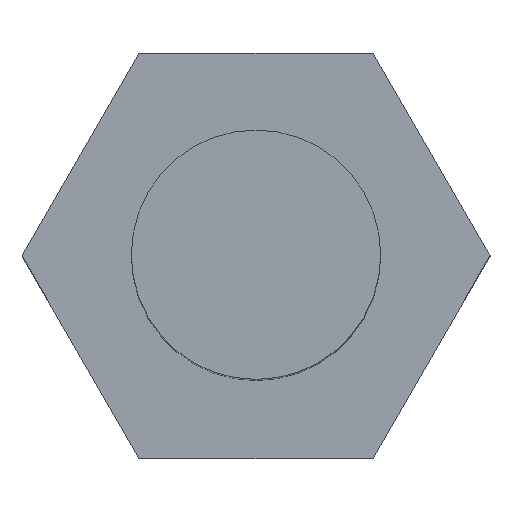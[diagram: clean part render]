
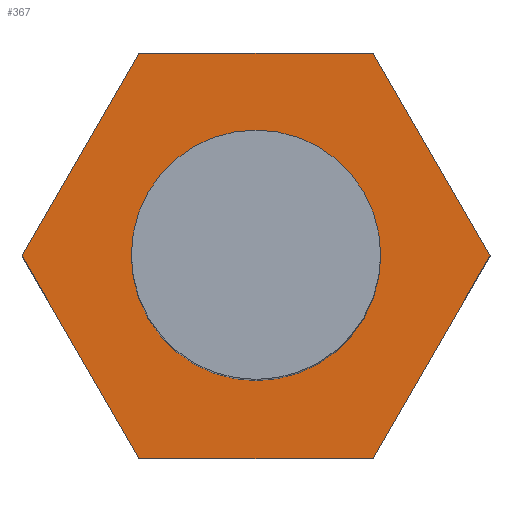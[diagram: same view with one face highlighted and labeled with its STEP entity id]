
A CAD part, top view. The second image highlights one B-rep face of the part: STEP entity #367.
In plain terms, the highlighted planar face has unit normal (0, 0, 1).
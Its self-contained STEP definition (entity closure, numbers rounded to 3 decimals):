
#24 = VERTEX_POINT('',#25);
#25 = CARTESIAN_POINT('',(7.506,0.,-106.8));
#32 = PLANE('',#33);
#33 = AXIS2_PLACEMENT_3D('',#34,#35,#36);
#34 = CARTESIAN_POINT('',(7.506,0.,-112.1));
#35 = DIRECTION('',(-0.866,-0.5,0.));
#36 = DIRECTION('',(-0.5,0.866,0.));
#44 = PLANE('',#45);
#45 = AXIS2_PLACEMENT_3D('',#46,#47,#48);
#46 = CARTESIAN_POINT('',(3.753,-6.5,-112.1));
#47 = DIRECTION('',(-0.866,0.5,0.));
#48 = DIRECTION('',(0.5,0.866,0.));
#56 = EDGE_CURVE('',#24,#57,#59,.T.);
#57 = VERTEX_POINT('',#58);
#58 = CARTESIAN_POINT('',(3.753,6.5,-106.8));
#59 = SURFACE_CURVE('',#60,(#64,#71),.PCURVE_S1.);
#60 = LINE('',#61,#62);
#61 = CARTESIAN_POINT('',(7.506,0.,-106.8));
#62 = VECTOR('',#63,1.);
#63 = DIRECTION('',(-0.5,0.866,0.));
#64 = PCURVE('',#32,#65);
#65 = DEFINITIONAL_REPRESENTATION('',(#66),#70);
#66 = LINE('',#67,#68);
#67 = CARTESIAN_POINT('',(0.,-5.3));
#68 = VECTOR('',#69,1.);
#69 = DIRECTION('',(1.,0.));
#70 = ( GEOMETRIC_REPRESENTATION_CONTEXT(2) 
PARAMETRIC_REPRESENTATION_CONTEXT() REPRESENTATION_CONTEXT('2D SPACE',''
  ) );
#71 = PCURVE('',#72,#77);
#72 = PLANE('',#73);
#73 = AXIS2_PLACEMENT_3D('',#74,#75,#76);
#74 = CARTESIAN_POINT('',(0.,0.,-106.8)
  );
#75 = DIRECTION('',(0.,0.,1.));
#76 = DIRECTION('',(1.,0.,-0.));
#77 = DEFINITIONAL_REPRESENTATION('',(#78),#82);
#78 = LINE('',#79,#80);
#79 = CARTESIAN_POINT('',(7.506,0.));
#80 = VECTOR('',#81,1.);
#81 = DIRECTION('',(-0.5,0.866));
#82 = ( GEOMETRIC_REPRESENTATION_CONTEXT(2) 
PARAMETRIC_REPRESENTATION_CONTEXT() REPRESENTATION_CONTEXT('2D SPACE',''
  ) );
#100 = PLANE('',#101);
#101 = AXIS2_PLACEMENT_3D('',#102,#103,#104);
#102 = CARTESIAN_POINT('',(3.753,6.5,-112.1));
#103 = DIRECTION('',(0.,-1.,0.));
#104 = DIRECTION('',(-1.,0.,0.));
#144 = VERTEX_POINT('',#145);
#145 = CARTESIAN_POINT('',(3.753,-6.5,-106.8));
#159 = PLANE('',#160);
#160 = AXIS2_PLACEMENT_3D('',#161,#162,#163);
#161 = CARTESIAN_POINT('',(-3.753,-6.5,-112.1));
#162 = DIRECTION('',(0.,1.,-0.));
#163 = DIRECTION('',(1.,0.,0.));
#171 = EDGE_CURVE('',#144,#24,#172,.T.);
#172 = SURFACE_CURVE('',#173,(#177,#184),.PCURVE_S1.);
#173 = LINE('',#174,#175);
#174 = CARTESIAN_POINT('',(3.753,-6.5,-106.8));
#175 = VECTOR('',#176,1.);
#176 = DIRECTION('',(0.5,0.866,0.));
#177 = PCURVE('',#44,#178);
#178 = DEFINITIONAL_REPRESENTATION('',(#179),#183);
#179 = LINE('',#180,#181);
#180 = CARTESIAN_POINT('',(0.,-5.3));
#181 = VECTOR('',#182,1.);
#182 = DIRECTION('',(1.,0.));
#183 = ( GEOMETRIC_REPRESENTATION_CONTEXT(2) 
PARAMETRIC_REPRESENTATION_CONTEXT() REPRESENTATION_CONTEXT('2D SPACE',''
  ) );
#184 = PCURVE('',#72,#185);
#185 = DEFINITIONAL_REPRESENTATION('',(#186),#190);
#186 = LINE('',#187,#188);
#187 = CARTESIAN_POINT('',(3.753,-6.5));
#188 = VECTOR('',#189,1.);
#189 = DIRECTION('',(0.5,0.866));
#190 = ( GEOMETRIC_REPRESENTATION_CONTEXT(2) 
PARAMETRIC_REPRESENTATION_CONTEXT() REPRESENTATION_CONTEXT('2D SPACE',''
  ) );
#218 = EDGE_CURVE('',#57,#219,#221,.T.);
#219 = VERTEX_POINT('',#220);
#220 = CARTESIAN_POINT('',(-3.753,6.5,-106.8));
#221 = SURFACE_CURVE('',#222,(#226,#233),.PCURVE_S1.);
#222 = LINE('',#223,#224);
#223 = CARTESIAN_POINT('',(3.753,6.5,-106.8));
#224 = VECTOR('',#225,1.);
#225 = DIRECTION('',(-1.,0.,0.));
#226 = PCURVE('',#100,#227);
#227 = DEFINITIONAL_REPRESENTATION('',(#228),#232);
#228 = LINE('',#229,#230);
#229 = CARTESIAN_POINT('',(0.,-5.3));
#230 = VECTOR('',#231,1.);
#231 = DIRECTION('',(1.,0.));
#232 = ( GEOMETRIC_REPRESENTATION_CONTEXT(2) 
PARAMETRIC_REPRESENTATION_CONTEXT() REPRESENTATION_CONTEXT('2D SPACE',''
  ) );
#233 = PCURVE('',#72,#234);
#234 = DEFINITIONAL_REPRESENTATION('',(#235),#239);
#235 = LINE('',#236,#237);
#236 = CARTESIAN_POINT('',(3.753,6.5));
#237 = VECTOR('',#238,1.);
#238 = DIRECTION('',(-1.,0.));
#239 = ( GEOMETRIC_REPRESENTATION_CONTEXT(2) 
PARAMETRIC_REPRESENTATION_CONTEXT() REPRESENTATION_CONTEXT('2D SPACE',''
  ) );
#257 = PLANE('',#258);
#258 = AXIS2_PLACEMENT_3D('',#259,#260,#261);
#259 = CARTESIAN_POINT('',(-3.753,6.5,-112.1));
#260 = DIRECTION('',(0.866,-0.5,0.));
#261 = DIRECTION('',(-0.5,-0.866,0.));
#334 = PLANE('',#335);
#335 = AXIS2_PLACEMENT_3D('',#336,#337,#338);
#336 = CARTESIAN_POINT('',(-7.506,0.,-112.1));
#337 = DIRECTION('',(0.866,0.5,-0.));
#338 = DIRECTION('',(0.5,-0.866,0.));
#367 = ADVANCED_FACE('',(#368,#440),#72,.T.);
#368 = FACE_BOUND('',#369,.T.);
#369 = EDGE_LOOP('',(#370,#371,#372,#395,#418,#439));
#370 = ORIENTED_EDGE('',*,*,#56,.T.);
#371 = ORIENTED_EDGE('',*,*,#218,.T.);
#372 = ORIENTED_EDGE('',*,*,#373,.T.);
#373 = EDGE_CURVE('',#219,#374,#376,.T.);
#374 = VERTEX_POINT('',#375);
#375 = CARTESIAN_POINT('',(-7.506,0.,-106.8));
#376 = SURFACE_CURVE('',#377,(#381,#388),.PCURVE_S1.);
#377 = LINE('',#378,#379);
#378 = CARTESIAN_POINT('',(-3.753,6.5,-106.8));
#379 = VECTOR('',#380,1.);
#380 = DIRECTION('',(-0.5,-0.866,0.));
#381 = PCURVE('',#72,#382);
#382 = DEFINITIONAL_REPRESENTATION('',(#383),#387);
#383 = LINE('',#384,#385);
#384 = CARTESIAN_POINT('',(-3.753,6.5));
#385 = VECTOR('',#386,1.);
#386 = DIRECTION('',(-0.5,-0.866));
#387 = ( GEOMETRIC_REPRESENTATION_CONTEXT(2) 
PARAMETRIC_REPRESENTATION_CONTEXT() REPRESENTATION_CONTEXT('2D SPACE',''
  ) );
#388 = PCURVE('',#257,#389);
#389 = DEFINITIONAL_REPRESENTATION('',(#390),#394);
#390 = LINE('',#391,#392);
#391 = CARTESIAN_POINT('',(0.,-5.3));
#392 = VECTOR('',#393,1.);
#393 = DIRECTION('',(1.,0.));
#394 = ( GEOMETRIC_REPRESENTATION_CONTEXT(2) 
PARAMETRIC_REPRESENTATION_CONTEXT() REPRESENTATION_CONTEXT('2D SPACE',''
  ) );
#395 = ORIENTED_EDGE('',*,*,#396,.T.);
#396 = EDGE_CURVE('',#374,#397,#399,.T.);
#397 = VERTEX_POINT('',#398);
#398 = CARTESIAN_POINT('',(-3.753,-6.5,-106.8));
#399 = SURFACE_CURVE('',#400,(#404,#411),.PCURVE_S1.);
#400 = LINE('',#401,#402);
#401 = CARTESIAN_POINT('',(-7.506,0.,-106.8));
#402 = VECTOR('',#403,1.);
#403 = DIRECTION('',(0.5,-0.866,0.));
#404 = PCURVE('',#72,#405);
#405 = DEFINITIONAL_REPRESENTATION('',(#406),#410);
#406 = LINE('',#407,#408);
#407 = CARTESIAN_POINT('',(-7.506,0.));
#408 = VECTOR('',#409,1.);
#409 = DIRECTION('',(0.5,-0.866));
#410 = ( GEOMETRIC_REPRESENTATION_CONTEXT(2) 
PARAMETRIC_REPRESENTATION_CONTEXT() REPRESENTATION_CONTEXT('2D SPACE',''
  ) );
#411 = PCURVE('',#334,#412);
#412 = DEFINITIONAL_REPRESENTATION('',(#413),#417);
#413 = LINE('',#414,#415);
#414 = CARTESIAN_POINT('',(0.,-5.3));
#415 = VECTOR('',#416,1.);
#416 = DIRECTION('',(1.,0.));
#417 = ( GEOMETRIC_REPRESENTATION_CONTEXT(2) 
PARAMETRIC_REPRESENTATION_CONTEXT() REPRESENTATION_CONTEXT('2D SPACE',''
  ) );
#418 = ORIENTED_EDGE('',*,*,#419,.T.);
#419 = EDGE_CURVE('',#397,#144,#420,.T.);
#420 = SURFACE_CURVE('',#421,(#425,#432),.PCURVE_S1.);
#421 = LINE('',#422,#423);
#422 = CARTESIAN_POINT('',(-3.753,-6.5,-106.8));
#423 = VECTOR('',#424,1.);
#424 = DIRECTION('',(1.,0.,0.));
#425 = PCURVE('',#72,#426);
#426 = DEFINITIONAL_REPRESENTATION('',(#427),#431);
#427 = LINE('',#428,#429);
#428 = CARTESIAN_POINT('',(-3.753,-6.5));
#429 = VECTOR('',#430,1.);
#430 = DIRECTION('',(1.,0.));
#431 = ( GEOMETRIC_REPRESENTATION_CONTEXT(2) 
PARAMETRIC_REPRESENTATION_CONTEXT() REPRESENTATION_CONTEXT('2D SPACE',''
  ) );
#432 = PCURVE('',#159,#433);
#433 = DEFINITIONAL_REPRESENTATION('',(#434),#438);
#434 = LINE('',#435,#436);
#435 = CARTESIAN_POINT('',(0.,-5.3));
#436 = VECTOR('',#437,1.);
#437 = DIRECTION('',(1.,0.));
#438 = ( GEOMETRIC_REPRESENTATION_CONTEXT(2) 
PARAMETRIC_REPRESENTATION_CONTEXT() REPRESENTATION_CONTEXT('2D SPACE',''
  ) );
#439 = ORIENTED_EDGE('',*,*,#171,.T.);
#440 = FACE_BOUND('',#441,.T.);
#441 = EDGE_LOOP('',(#442));
#442 = ORIENTED_EDGE('',*,*,#443,.F.);
#443 = EDGE_CURVE('',#444,#444,#446,.T.);
#444 = VERTEX_POINT('',#445);
#445 = CARTESIAN_POINT('',(4.,0.,-106.8));
#446 = SURFACE_CURVE('',#447,(#452,#459),.PCURVE_S1.);
#447 = CIRCLE('',#448,4.);
#448 = AXIS2_PLACEMENT_3D('',#449,#450,#451);
#449 = CARTESIAN_POINT('',(0.,0.,-106.8));
#450 = DIRECTION('',(0.,0.,1.));
#451 = DIRECTION('',(1.,0.,-0.));
#452 = PCURVE('',#72,#453);
#453 = DEFINITIONAL_REPRESENTATION('',(#454),#458);
#454 = CIRCLE('',#455,4.);
#455 = AXIS2_PLACEMENT_2D('',#456,#457);
#456 = CARTESIAN_POINT('',(0.,0.));
#457 = DIRECTION('',(1.,0.));
#458 = ( GEOMETRIC_REPRESENTATION_CONTEXT(2) 
PARAMETRIC_REPRESENTATION_CONTEXT() REPRESENTATION_CONTEXT('2D SPACE',''
  ) );
#459 = PCURVE('',#460,#465);
#460 = CYLINDRICAL_SURFACE('',#461,4.);
#461 = AXIS2_PLACEMENT_3D('',#462,#463,#464);
#462 = CARTESIAN_POINT('',(0.,0.,-107.));
#463 = DIRECTION('',(0.,0.,1.));
#464 = DIRECTION('',(1.,0.,-0.));
#465 = DEFINITIONAL_REPRESENTATION('',(#466),#470);
#466 = LINE('',#467,#468);
#467 = CARTESIAN_POINT('',(0.,0.2));
#468 = VECTOR('',#469,1.);
#469 = DIRECTION('',(1.,0.));
#470 = ( GEOMETRIC_REPRESENTATION_CONTEXT(2) 
PARAMETRIC_REPRESENTATION_CONTEXT() REPRESENTATION_CONTEXT('2D SPACE',''
  ) );
